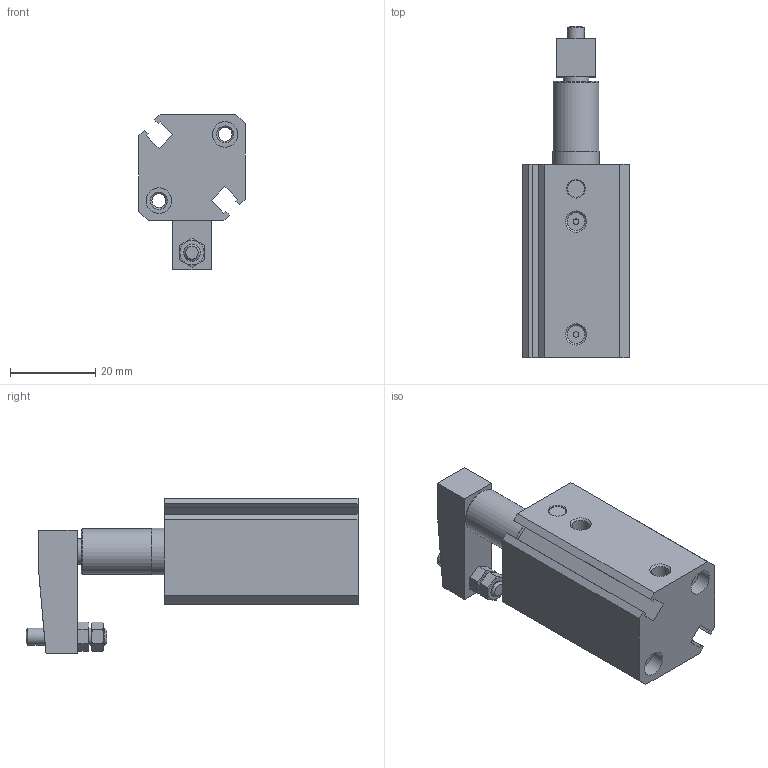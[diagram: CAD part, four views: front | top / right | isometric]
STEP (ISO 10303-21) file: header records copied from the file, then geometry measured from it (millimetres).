
FILE_DESCRIPTION(/* description */ ('STEP AP203'),/* implementation_level */ '2;1');
FILE_NAME(/* name */ 'QCKR12x10SG(07)',/* time_stamp */ '2024-09-09T08:30:47+02:00',/* author */ ('License CC BY-ND 4.0'),/* organization */ ('CADENAS'),/* preprocessor_version */ 'ST-DEVELOPER v19.3',/* originating_system */ 'PARTsolutions',/* authorisation */ ' ');
FILE_SCHEMA (('CONFIG_CONTROL_DESIGN'));
Length unit declared in the file: millimetre
Products named in the file (4): QCKR12x10SG(07); QCKR12x10SG_07d; QCKL12x10-S0_b; QCKR12x10-S(07)_r
Assembly tree (3 placements, depth 2):
  QCKR12x10SG(07)
    QCKR12x10SG_07d
    QCKL12x10-S0_b
    QCKR12x10-S(07)_r
Bounding box: 25 x 78 x 36.5 mm (x, y, z)
Volume: 26267.5 mm3; surface area: 13568.1 mm2
Topology: 2 solids, 2 shells, 121 faces, 248 edges, 161 vertices
Faces by surface type: plane 74, cylinder 29, cone 18
Full cylindrical faces by diameter (mm): 1.3 x2, 3.242 x4, 3.4 x2, 4 x4, 4.134 x2, 5.5 x1, 6 x7, 10.8 x1, 11 x1, 12 x2, 14.2 x1, 15 x1, 15.3 x1
Entity records: 3055 total; most frequent: CARTESIAN_POINT 563, DIRECTION 501, ORIENTED_EDGE 398, EDGE_LOOP 201, FACE_BOUND 201, AXIS2_PLACEMENT_3D 201, EDGE_CURVE 199, VERTEX_POINT 158
